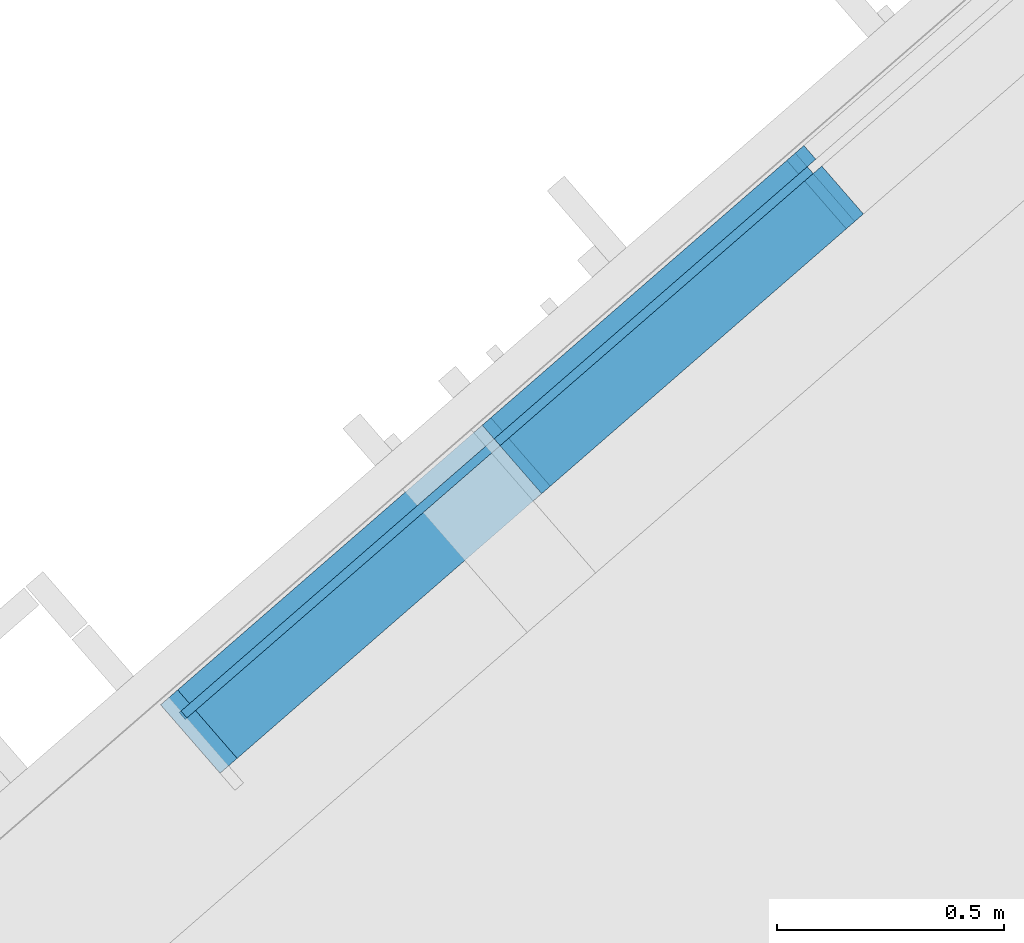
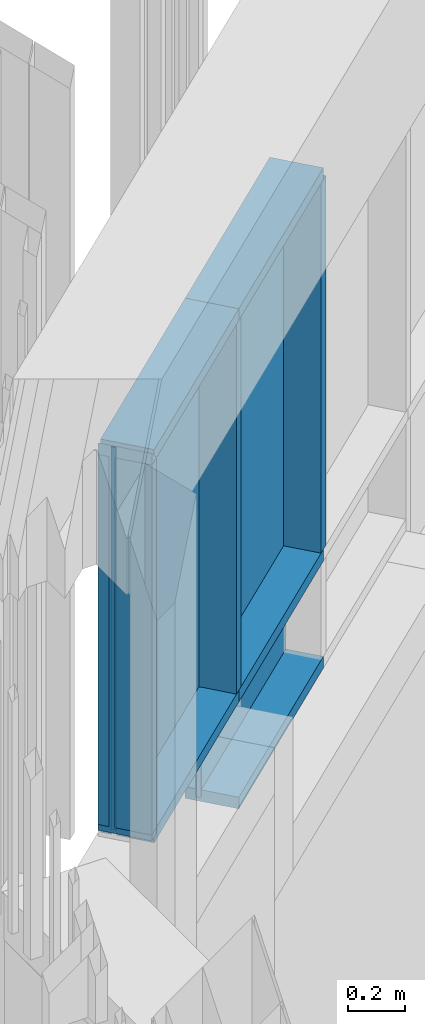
# One storey, part 33 of 390: 14 discrete accessories, 1 element without a shape of its own.
"""IFC2X3 building model written with IfcOpenShell, lengths in millimetres."""

from ifc_helpers import new_model, entity, si_unit, converted_unit, derived_unit, money_unit, direction, frame, origin_with_axes, place, context, subcontext, project, spatial, polyline, outline, extrude, clip, halfspace, material, material_list, type_object, element, aggregate, save


model = new_model("IFC2X3")

# Units and contexts
model_context = context("Model", 3, precision=1e-05, world=origin_with_axes(), true_north=direction((0.0, 1.0)))
body_context = subcontext(model_context, "Body", "Model", "MODEL_VIEW")
ifc_project = project(units=[si_unit("LENGTHUNIT", "METRE", prefix="MILLI"), si_unit("AREAUNIT", "SQUARE_METRE"), si_unit("VOLUMEUNIT", "CUBIC_METRE"), converted_unit("PLANEANGLEUNIT", "DEGREE", entity("IfcPlaneAngleMeasure", 0.0174532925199), si_unit("PLANEANGLEUNIT", "RADIAN"), dimensions=[0, 0, 0, 0, 0, 0, 0]), si_unit("SOLIDANGLEUNIT", "STERADIAN"), money_unit("EUR"), converted_unit("TIMEUNIT", "Year", entity("IfcTimeMeasure", 31556926.0), si_unit("TIMEUNIT", "SECOND"), dimensions=[0, 0, 1, 0, 0, 0, 0]), si_unit("MASSUNIT", "GRAM", prefix="KILO"), si_unit("THERMODYNAMICTEMPERATUREUNIT", "DEGREE_CELSIUS"), si_unit("LUMINOUSINTENSITYUNIT", "LUMEN"), si_unit("ENERGYUNIT", "JOULE", prefix="MEGA"), derived_unit("THERMALCONDUCTANCEUNIT", [(si_unit("POWERUNIT", "WATT"), 1), (si_unit("LENGTHUNIT", "METRE"), -1), (si_unit("THERMODYNAMICTEMPERATUREUNIT", "KELVIN"), -1)]), derived_unit("SPECIFICHEATCAPACITYUNIT", [(si_unit("ENERGYUNIT", "JOULE"), 1), (si_unit("MASSUNIT", "GRAM", prefix="KILO"), -1), (si_unit("THERMODYNAMICTEMPERATUREUNIT", "KELVIN"), -1)]), derived_unit("MASSDENSITYUNIT", [(si_unit("MASSUNIT", "GRAM", prefix="KILO"), 1), (si_unit("VOLUMEUNIT", "CUBIC_METRE"), -1)])], contexts=[model_context])

# Site, building, storey
site_placement = place(None, origin_with_axes())
site = spatial("IfcSite", under=ifc_project, at=site_placement, Name="Site", CompositionType="ELEMENT")
building_placement = place(site_placement, origin_with_axes())
building = spatial("IfcBuilding", under=site, at=building_placement, Name="Building", CompositionType="ELEMENT")
storey_placement = place(building_placement, origin_with_axes())
storey = spatial("IfcBuildingStorey", under=building, at=storey_placement, Name="1 korrus", CompositionType="ELEMENT", Elevation=0.0)

# Curtain wall, discrete accessories
curtain_wall_type = type_object("IfcCurtainWallType", Name="KLF-16", PredefinedType="NOTDEFINED")
curtain_wall_placement = place(storey_placement, frame((129915.663376, 82755.7268841, -0.000187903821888), z_axis=(0.0, 0.0, 1.0), x_axis=(1.0, 0.0, 0.0)))
curtain_wall = element("IfcCurtainWall", 1, at=curtain_wall_placement, inside=storey, type_object=curtain_wall_type, Name="Klaasfassaad")
ifc_material_1 = material(Name="Klaas")
discrete_accessory_type_1 = type_object("IfcDiscreteAccessoryType", Name="Distinct Panel 915 x 1645 x 20")
discrete_accessory_1_placement = place(curtain_wall_placement, frame((-6239.56145188, -5423.96802518, 3267.50003473), z_axis=(0.0, 0.0, 1.0), x_axis=(0.754709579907, 0.656059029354, 0.0)))
discrete_accessory_1 = element("IfcDiscreteAccessory", 2, at=discrete_accessory_1_placement, type_object=discrete_accessory_type_1, material=ifc_material_1, Name="KLF-16 klaaspakett", context=body_context, shape_type="SweptSolid", body=[
    extrude(outline(polyline([(-457.500010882, -812.499843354), (457.499999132, -812.499843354), (457.499999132, 832.499846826), (-457.500010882, 832.499846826), (-457.500010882, -812.499843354)])), frame((0.0, -10.0, 0.0), z_axis=(0.0, 1.0, 0.0), x_axis=(1.0, 0.0, 0.0)), (0.0, 0.0, 1.0), 20.0),
])
discrete_accessory_2_placement = place(curtain_wall_placement, frame((-5549.00218627, -4823.67401332, 3267.50003473), z_axis=(0.0, 0.0, 1.0), x_axis=(0.754709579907, 0.656059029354, 0.0)))
discrete_accessory_2 = element("IfcDiscreteAccessory", 3, at=discrete_accessory_2_placement, type_object=discrete_accessory_type_1, material=ifc_material_1, Name="KLF-16 klaaspakett", context=body_context, shape_type="SweptSolid", body=[
    extrude(outline(polyline([(-457.500010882, -812.499843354), (457.499999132, -812.499843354), (457.499999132, 832.499846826), (-457.500010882, 832.499846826), (-457.500010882, -812.499843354)])), frame((0.0, -10.0, 0.0), z_axis=(0.0, 1.0, 0.0), x_axis=(1.0, 0.0, 0.0)), (0.0, 0.0, 1.0), 20.0),
])
discrete_accessory_type_2 = type_object("IfcDiscreteAccessoryType", Name="Distinct Panel 915 x 465 x 20")
discrete_accessory_3_placement = place(curtain_wall_placement, frame((-6130.75752295, -5329.38621265, 2265.00017696), z_axis=(0.0, 0.0, 1.0), x_axis=(0.754709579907, 0.656059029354, 0.0)))
discrete_accessory_3 = element("IfcDiscreteAccessory", 4, at=discrete_accessory_3_placement, type_object=discrete_accessory_type_2, material=ifc_material_1, Name="KLF-16 klaaspakett", context=body_context, shape_type="SweptSolid", body=[
    extrude(outline(polyline([(-601.666619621, -170.000016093), (313.333380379, -170.000016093), (313.333380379, 294.999995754), (308.33324068, 294.999995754), (308.33324068, -164.999971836), (-601.666619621, -164.999999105), (-601.666619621, -170.000016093)])), frame((0.0, -10.0, 0.0), z_axis=(0.0, 1.0, 0.0), x_axis=(1.0, 0.0, 0.0)), (0.0, 0.0, 1.0), 20.0),
])
discrete_accessory_4_placement = place(curtain_wall_placement, frame((-5549.00218627, -4823.67401332, 2192.50018467), z_axis=(0.0, 0.0, 1.0), x_axis=(0.754709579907, 0.656059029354, 0.0)))
discrete_accessory_4 = element("IfcDiscreteAccessory", 5, at=discrete_accessory_4_placement, type_object=discrete_accessory_type_2, material=ifc_material_1, Name="KLF-16 klaaspakett", context=body_context, shape_type="SweptSolid", body=[
    extrude(outline(polyline([(-457.5, -242.500008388), (457.5, -242.500008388), (457.5, 222.500003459), (-457.5, 222.500003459), (-457.5, -242.500008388)])), frame((0.0, -10.0, 0.0), z_axis=(0.0, 1.0, 0.0), x_axis=(1.0, 0.0, 0.0)), (0.0, 0.0, 1.0), 20.0),
])
discrete_accessory_type_3 = type_object("IfcDiscreteAccessoryType", Name="Distinct Panel 5 x 1645 x 20")
discrete_accessory_5_placement = place(curtain_wall_placement, frame((-6594.27493935, -5732.31575586, 3267.50004605), z_axis=(0.0, 0.0, 1.0), x_axis=(0.754709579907, 0.656059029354, 0.0)))
discrete_accessory_5 = element("IfcDiscreteAccessory", 6, at=discrete_accessory_5_placement, type_object=discrete_accessory_type_3, material=ifc_material_1, Name="KLF-16 klaaspakett", context=body_context, shape_type="SweptSolid", body=[
    extrude(outline(polyline([(7.49990356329, -812.499851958), (12.4999789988, -812.499827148), (12.4999789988, 832.499858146), (7.50015166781, 832.499858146), (7.49990356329, -812.499851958)])), frame((0.0, -10.0, 0.0), z_axis=(0.0, 1.0, 0.0), x_axis=(1.0, 0.0, 0.0)), (0.0, 0.0, 1.0), 20.0),
])
ifc_material_2 = material(Name="Aluminium MUST")
ifc_material_list_1 = material_list([ifc_material_2, ifc_material_2])
discrete_accessory_type_4 = type_object("IfcDiscreteAccessoryType", Name="50 x 200")
discrete_accessory_6_placement = place(curtain_wall_placement, frame((-5203.72255346, -4523.52700739, 2435.0001879), z_axis=(-0.754709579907, -0.656059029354, 0.0), x_axis=(0.0, 0.0, 1.0)))
discrete_accessory_6 = element("IfcDiscreteAccessory", 7, at=discrete_accessory_6_placement, type_object=discrete_accessory_type_4, material=ifc_material_list_1, Name="KLF-16 profiil", context=body_context, shape_type="SweptSolid", body=[
    extrude(outline(polyline([(-150.0, -25.0), (-9.99999999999, -25.0), (-9.99999999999, 25.0), (-150.0, 25.0), (-150.0, -25.0)])), frame((0.0, 0.0, 0.0), z_axis=(0.0, 0.0, 1.0), x_axis=(0.0, 1.0, 0.0)), (0.0, 0.0, 1.0), 915.0),
    extrude(outline(polyline([(50.0, 25.0), (10.0, 25.0), (10.0, -25.0), (50.0, -25.0), (50.0, 25.0)])), frame((0.0, 0.0, 0.0), z_axis=(0.0, 0.0, 1.0), x_axis=(0.0, 1.0, 0.0)), (0.0, 0.0, 1.0), 915.0),
])
discrete_accessory_7_placement = place(curtain_wall_placement, frame((-5894.28181907, -5123.82101925, 2435.0001879), z_axis=(-0.754709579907, -0.656059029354, 0.0), x_axis=(0.0, 0.0, 1.0)))
discrete_accessory_7 = element("IfcDiscreteAccessory", 8, at=discrete_accessory_7_placement, type_object=discrete_accessory_type_4, material=ifc_material_list_1, Name="KLF-16 profiil", context=body_context, shape_type="SweptSolid", body=[
    extrude(outline(polyline([(-150.0, -25.0), (-10.0, -25.0), (-10.0, 25.0), (-150.0, 25.0), (-150.0, -25.0)])), frame((0.0, 0.0, 0.0), z_axis=(0.0, 0.0, 1.0), x_axis=(0.0, 1.0, 0.0)), (0.0, 0.0, 1.0), 915.0),
    extrude(outline(polyline([(50.0, 25.0), (10.0, 25.0), (10.0, -25.0), (50.0, -25.0), (50.0, 25.0)])), frame((0.0, 0.0, 0.0), z_axis=(0.0, 0.0, 1.0), x_axis=(0.0, 1.0, 0.0)), (0.0, 0.0, 1.0), 915.0),
])
discrete_accessory_8_placement = place(curtain_wall_placement, frame((-5203.72255346, -4523.52700739, 2435.0001879), z_axis=(0.0, 0.0, 1.0), x_axis=(0.754709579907, 0.656059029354, 0.0)))
discrete_accessory_8 = element("IfcDiscreteAccessory", 9, at=discrete_accessory_8_placement, type_object=discrete_accessory_type_4, material=ifc_material_list_1, Name="KLF-16 profiil", context=body_context, shape_type="SweptSolid", body=[
    extrude(outline(polyline([(117.276593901, -96.8049612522), (25.4283297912, 8.85437993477), (-12.3071492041, -23.9485715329), (79.5411149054, -129.60791272), (117.276593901, -96.8049612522)])), frame((0.0, 0.0, 25.0), z_axis=(0.0, 0.0, 1.0), x_axis=(0.754709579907, -0.656059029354, 0.0)), (0.0, 0.0, 1.0), 1589.99969365),
    extrude(outline(polyline([(-51.6706909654, 21.3340032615), (-25.4283297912, -8.85437993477), (12.3071492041, 23.9485715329), (-13.93521197, 54.1369547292), (-51.6706909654, 21.3340032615)])), frame((0.0, 0.0, 25.0), z_axis=(0.0, 0.0, 1.0), x_axis=(0.754709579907, -0.656059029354, 0.0)), (0.0, 0.0, 1.0), 1589.99969365),
])
ifc_material_list_2 = material_list([ifc_material_2, ifc_material_2, ifc_material_2])
discrete_accessory_9_placement = place(curtain_wall_placement, frame((-5894.28181907, -5123.82101925, 4099.99988156), z_axis=(0.754709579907, 0.656059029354, 0.0), x_axis=(0.0, 0.0, -1.0)))
discrete_accessory_9 = element("IfcDiscreteAccessory", 10, at=discrete_accessory_9_placement, type_object=discrete_accessory_type_4, material=ifc_material_list_2, Name="KLF-16 profiil", context=body_context, shape_type="SweptSolid", body=[
    extrude(outline(polyline([(10.0, 25.0), (-9.99999999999, 25.0), (-9.99999999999, 0.0), (10.0, 0.0), (10.0, 25.0)])), frame((0.0, 0.0, 0.0), z_axis=(0.0, 0.0, 1.0), x_axis=(0.0, -1.0, 0.0)), (0.0, 0.0, 1.0), 915.0),
    extrude(outline(polyline([(150.0, 50.0), (10.0, 50.0), (10.0, 0.0), (150.0, 0.0), (150.0, 50.0)])), frame((0.0, 0.0, 0.0), z_axis=(0.0, 0.0, 1.0), x_axis=(0.0, -1.0, 0.0)), (0.0, 0.0, 1.0), 915.0),
    extrude(outline(polyline([(-50.0, 0.0), (-9.99999999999, 0.0), (-9.99999999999, 50.0), (-50.0, 50.0), (-50.0, 0.0)])), frame((0.0, 0.0, 0.0), z_axis=(0.0, 0.0, 1.0), x_axis=(0.0, -1.0, 0.0)), (0.0, 0.0, 1.0), 915.0),
])
discrete_accessory_10_placement = place(curtain_wall_placement, frame((-5894.28181907, -5123.82101925, 2435.0001879), z_axis=(0.0, 0.0, 1.0), x_axis=(0.754709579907, 0.656059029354, 0.0)))
discrete_accessory_10 = element("IfcDiscreteAccessory", 11, at=discrete_accessory_10_placement, type_object=discrete_accessory_type_4, material=ifc_material_list_1, Name="KLF-16 profiil", context=body_context, shape_type="SweptSolid", body=[
    extrude(outline(polyline([(117.276593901, -96.8049612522), (25.4283297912, 8.85437993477), (-12.3071492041, -23.9485715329), (79.5411149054, -129.60791272), (117.276593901, -96.8049612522)])), frame((0.0, 0.0, 25.0), z_axis=(0.0, 0.0, 1.0), x_axis=(0.754709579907, -0.656059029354, 0.0)), (0.0, 0.0, 1.0), 1589.99969365),
    extrude(outline(polyline([(-51.6706909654, 21.3340032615), (-25.4283297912, -8.85437993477), (12.3071492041, 23.9485715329), (-13.93521197, 54.1369547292), (-51.6706909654, 21.3340032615)])), frame((0.0, 0.0, 25.0), z_axis=(0.0, 0.0, 1.0), x_axis=(0.754709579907, -0.656059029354, 0.0)), (0.0, 0.0, 1.0), 1589.99969365),
])
discrete_accessory_11_placement = place(curtain_wall_placement, frame((-6584.84108469, -5724.11503111, 4099.99988156), z_axis=(0.754709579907, 0.656059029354, 0.0), x_axis=(0.0, 0.0, -1.0)))
discrete_accessory_11 = element("IfcDiscreteAccessory", 12, at=discrete_accessory_11_placement, type_object=discrete_accessory_type_4, material=ifc_material_list_2, Name="KLF-16 profiil", context=body_context, shape_type="SweptSolid", body=[
    extrude(outline(polyline([(9.99999999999, 25.0), (-10.0, 25.0), (-10.0, 0.0), (9.99999999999, 0.0), (9.99999999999, 25.0)])), frame((0.0, 0.0, -4.52787105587e-05), z_axis=(0.0, 0.0, 1.0), x_axis=(0.0, -1.0, 0.0)), (0.0, 0.0, 1.0), 915.000045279),
    extrude(outline(polyline([(150.0, 50.0), (9.99999999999, 50.0), (9.99999999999, 0.0), (150.0, 0.0), (150.0, 50.0)])), frame((0.0, 0.0, -4.52787105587e-05), z_axis=(0.0, 0.0, 1.0), x_axis=(0.0, -1.0, 0.0)), (0.0, 0.0, 1.0), 915.000045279),
    extrude(outline(polyline([(-50.0, 0.0), (-10.0, 0.0), (-10.0, 50.0), (-50.0, 50.0), (-50.0, 0.0)])), frame((0.0, 0.0, -4.52787105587e-05), z_axis=(0.0, 0.0, 1.0), x_axis=(0.0, -1.0, 0.0)), (0.0, 0.0, 1.0), 915.000045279),
])
discrete_accessory_12_placement = place(curtain_wall_placement, frame((-6584.84108469, -5724.11503111, 2435.0001879), z_axis=(0.0, 0.0, 1.0), x_axis=(0.754709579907, 0.656059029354, 0.0)))
discrete_accessory_12 = element("IfcDiscreteAccessory", 13, at=discrete_accessory_12_placement, type_object=discrete_accessory_type_4, material=ifc_material_list_1, Name="KLF-16 profiil", context=body_context, shape_type="SweptSolid", body=[
    extrude(outline(polyline([(117.276593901, -96.8049612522), (25.4283297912, 8.85437993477), (-12.3071492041, -23.9485715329), (79.5411149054, -129.60791272), (117.276593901, -96.8049612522)])), frame((0.0, 0.0, 25.0), z_axis=(0.0, 0.0, 1.0), x_axis=(0.754709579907, -0.656059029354, 0.0)), (0.0, 0.0, 1.0), 1589.99969365),
    extrude(outline(polyline([(-51.6706909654, 21.3340032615), (-25.4283297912, -8.85437993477), (12.3071492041, 23.9485715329), (-13.93521197, 54.1369547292), (-51.6706909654, 21.3340032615)])), frame((0.0, 0.0, 25.0), z_axis=(0.0, 0.0, 1.0), x_axis=(0.754709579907, -0.656059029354, 0.0)), (0.0, 0.0, 1.0), 1589.99969365),
])
discrete_accessory_13_placement = place(curtain_wall_placement, frame((-5203.72255346, -4523.52700739, 1950.00018143), z_axis=(-0.754709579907, -0.656059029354, 0.0), x_axis=(0.0, 0.0, 1.0)))
discrete_accessory_13 = element("IfcDiscreteAccessory", 14, at=discrete_accessory_13_placement, type_object=discrete_accessory_type_4, material=ifc_material_list_2, Name="KLF-16 profiil", context=body_context, shape_type="SweptSolid", body=[
    extrude(outline(polyline([(-9.99999999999, -25.0), (10.0, -25.0), (10.0, 0.0), (-9.99999999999, 0.0), (-9.99999999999, -25.0)])), frame((0.0, 0.0, -1.83072756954e-06), z_axis=(0.0, 0.0, 1.0), x_axis=(0.0, 1.0, 0.0)), (0.0, 0.0, 1.0), 915.000001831),
    extrude(outline(polyline([(-150.0, -50.0), (-9.99999999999, -50.0), (-9.99999999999, 0.0), (-150.0, 0.0), (-150.0, -50.0)])), frame((0.0, 0.0, -1.83072756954e-06), z_axis=(0.0, 0.0, 1.0), x_axis=(0.0, 1.0, 0.0)), (0.0, 0.0, 1.0), 915.000001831),
    extrude(outline(polyline([(50.0, 0.0), (10.0, 0.0), (10.0, -50.0), (50.0, -50.0), (50.0, 0.0)])), frame((0.0, 0.0, -1.83072756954e-06), z_axis=(0.0, 0.0, 1.0), x_axis=(0.0, 1.0, 0.0)), (0.0, 0.0, 1.0), 915.000001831),
])
discrete_accessory_14_placement = place(curtain_wall_placement, frame((-6603.70869812, -5740.51639725, 2435.0001879), z_axis=(-1.15176460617e-07, -1.00121367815e-07, 1.0), x_axis=(0.754709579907, 0.656059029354, 1.52610305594e-07)))
discrete_accessory_14 = element("IfcDiscreteAccessory", 15, at=discrete_accessory_14_placement, type_object=discrete_accessory_type_4, material=ifc_material_list_2, Name="KLF-16 profiil", context=body_context, shape_type="Clipping", body=[
    clip(extrude(outline(polyline([(25.4283297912, 8.85437993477), (12.3071492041, 23.9485715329), (-6.56059029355, 7.54709579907), (6.56059029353, -7.54709579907), (25.4283297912, 8.85437993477)])), frame((0.0, 0.0, -3.8152578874e-06), z_axis=(0.0, 0.0, 1.0), x_axis=(0.754709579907, -0.656059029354, -1.15176460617e-07)), (0.0, 0.0, 1.0), 1664.99974275), halfspace(frame((832.499869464, 0.0, 832.498234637), z_axis=(-0.707107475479, 0.0, -0.707106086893), x_axis=(0.0, 1.0, 0.0)), True)),
    clip(extrude(outline(polyline([(136.144333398, -80.4034855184), (44.2960692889, 25.2558556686), (6.56059029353, -7.54709579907), (98.408854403, -113.206436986), (136.144333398, -80.4034855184)])), frame((0.0, 0.0, -3.8152578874e-06), z_axis=(0.0, 0.0, 1.0), x_axis=(0.754709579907, -0.656059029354, -1.15176460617e-07)), (0.0, 0.0, 1.0), 1664.99974275), halfspace(frame((832.499869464, 0.0, 832.498234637), z_axis=(-0.707107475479, 0.0, -0.707106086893), x_axis=(0.0, 1.0, 0.0)), True)),
    clip(extrude(outline(polyline([(-32.8029514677, 37.7354789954), (-6.56059029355, 7.54709579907), (31.1748887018, 40.3500472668), (4.93252752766, 70.538430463), (-32.8029514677, 37.7354789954)])), frame((0.0, 0.0, -3.8152578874e-06), z_axis=(0.0, 0.0, 1.0), x_axis=(0.754709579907, -0.656059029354, -1.15176460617e-07)), (0.0, 0.0, 1.0), 1664.99974275), halfspace(frame((832.499869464, 0.0, 832.498234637), z_axis=(-0.707107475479, 0.0, -0.707106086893), x_axis=(0.0, 1.0, 0.0)), True)),
])
aggregate(curtain_wall, [discrete_accessory_1, discrete_accessory_3, discrete_accessory_4, discrete_accessory_2, discrete_accessory_5, discrete_accessory_6, discrete_accessory_7, discrete_accessory_8, discrete_accessory_9, discrete_accessory_10, discrete_accessory_11, discrete_accessory_12, discrete_accessory_13, discrete_accessory_14])

save(model, "model.ifc")
